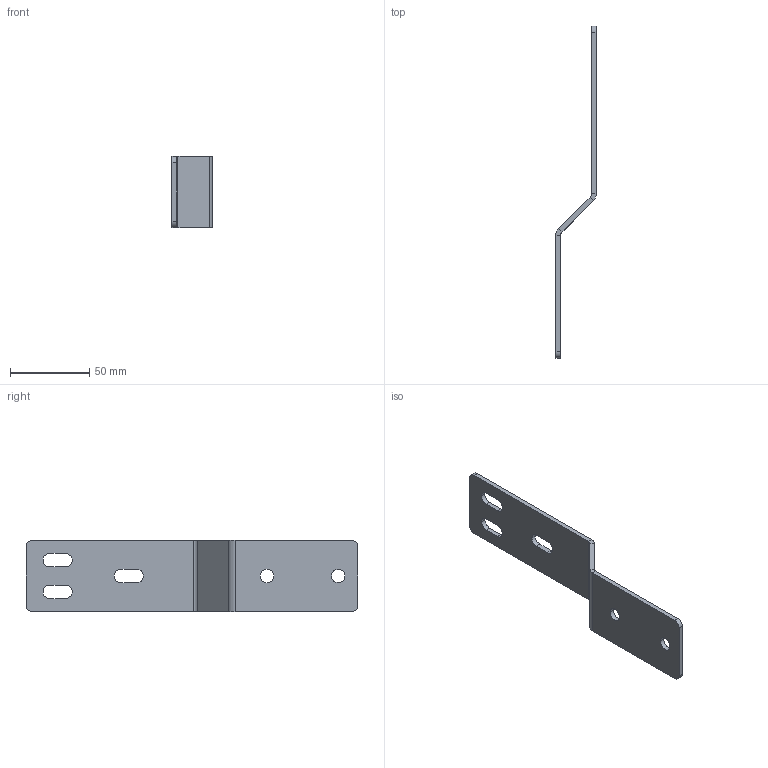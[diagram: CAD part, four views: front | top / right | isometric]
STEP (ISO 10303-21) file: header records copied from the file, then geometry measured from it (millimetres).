
FILE_DESCRIPTION (( 'STEP AP203' ), '1' );
FILE_NAME ('2000.325.620.STEP', '2015-04-15T11:48:29', ( '' ), ( '' ), 'SwSTEP 2.0', 'SolidWorks 2012', '' );
FILE_SCHEMA (( 'CONFIG_CONTROL_DESIGN' ));
Length unit declared in the file: millimetre
Products named in the file (1): 2000.325.620
Bounding box: 25.5 x 210 x 45 mm (x, y, z)
Volume: 27898.5 mm3; surface area: 20742.6 mm2
Topology: 1 solids, 1 shells, 45 faces, 113 edges, 70 vertices
Faces by surface type: plane 24, cylinder 21
Entity records: 1438 total; most frequent: DIRECTION 247, CARTESIAN_POINT 229, ORIENTED_EDGE 226, EDGE_CURVE 113, AXIS2_PLACEMENT_3D 88, VECTOR 71, LINE 71, VERTEX_POINT 70
